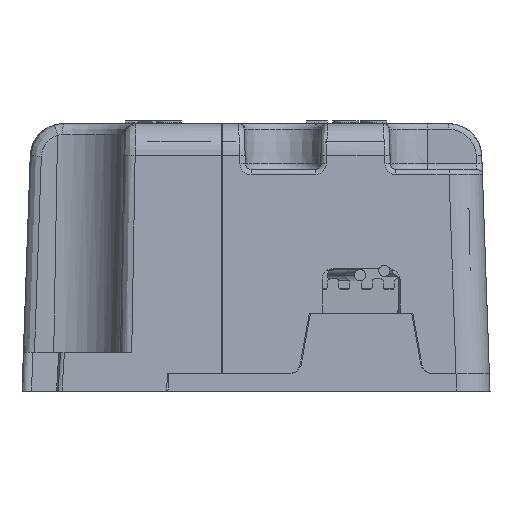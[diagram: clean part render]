
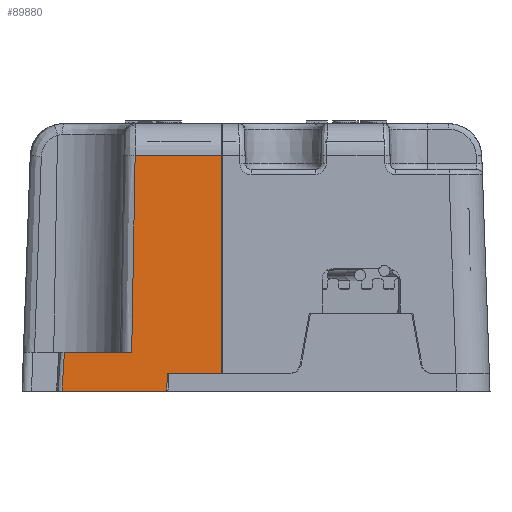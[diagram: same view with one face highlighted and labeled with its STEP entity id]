
A CAD part, left-side view. The second image highlights one B-rep face of the part: STEP entity #89880.
In plain terms, the highlighted planar face has unit normal (-0.999, 0, 0.035) as drawn and (0.999, 0, -0.035) by its records, which use the part's own axes.
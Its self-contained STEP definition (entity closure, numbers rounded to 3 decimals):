
#62340=CARTESIAN_POINT('',(-92.599,-45.689,-1.6));
#62350=VERTEX_POINT('',#62340);
#62380=CARTESIAN_POINT('',(-92.543,-45.689,0.));
#62390=DIRECTION('',(-0.035,0.,-0.999));
#62400=VECTOR('',#62390,1.);
#62410=LINE('',#62380,#62400);
#62420=CARTESIAN_POINT('',(-93.28,-45.689,
-21.105));
#62430=VERTEX_POINT('',#62420);
#62440=EDGE_CURVE('',#62350,#62430,#62410,.T.);
#79150=CARTESIAN_POINT('',(-92.665,-37.634,-3.5));
#79160=VERTEX_POINT('',#79150);
#79190=CARTESIAN_POINT('',(-92.665,-1.,-3.5));
#79200=DIRECTION('',(0.,1.,0.));
#79210=VECTOR('',#79200,1.);
#79220=LINE('',#79190,#79210);
#79230=CARTESIAN_POINT('',(-92.665,-31.592,-3.5));
#79240=VERTEX_POINT('',#79230);
#79250=EDGE_CURVE('',#79160,#79240,#79220,.T.);
#83310=CARTESIAN_POINT('',(-92.543,-31.384,0.));
#83320=VERTEX_POINT('',#83310);
#83350=CARTESIAN_POINT('',(-92.543,0.,0.));
#83360=DIRECTION('',(0.,1.,0.));
#83370=VECTOR('',#83360,1.);
#83380=LINE('',#83350,#83370);
#83390=CARTESIAN_POINT('',(-92.543,-40.789,0.));
#83400=VERTEX_POINT('',#83390);
#83410=EDGE_CURVE('',#83400,#83320,#83380,.T.);
#89440=CARTESIAN_POINT('',(-92.748,-40.404,
-5.862));
#89450=DIRECTION('',(-0.999,0.,0.035));
#89460=DIRECTION('',(0.,1.,0.));
#89470=AXIS2_PLACEMENT_3D('',#89440,#89450,#89460);
#89480=PLANE('',#89470);
#89490=CARTESIAN_POINT('',(-92.544,-37.573,
-0.035));
#89500=DIRECTION('',(-0.035,-0.017,
-0.999));
#89510=VECTOR('',#89500,1.);
#89520=LINE('',#89490,#89510);
#89530=CARTESIAN_POINT('',(-93.28,-37.941,
-21.105));
#89540=VERTEX_POINT('',#89530);
#89550=EDGE_CURVE('',#79160,#89540,#89520,.T.);
#89560=ORIENTED_EDGE('',*,*,#89550,.F.);
#89570=CARTESIAN_POINT('',(-93.28,0.,-21.105));
#89580=DIRECTION('',(0.,1.,0.));
#89590=VECTOR('',#89580,1.);
#89600=LINE('',#89570,#89590);
#89610=EDGE_CURVE('',#62430,#89540,#89600,.T.);
#89620=ORIENTED_EDGE('',*,*,#89610,.T.);
#89630=ORIENTED_EDGE('',*,*,#62440,.T.);
#89640=CARTESIAN_POINT('',(-92.599,0.,-1.6));
#89650=DIRECTION('',(0.,1.,0.));
#89660=VECTOR('',#89650,1.);
#89670=LINE('',#89640,#89660);
#89680=CARTESIAN_POINT('',(-92.599,-40.817,-1.6));
#89690=VERTEX_POINT('',#89680);
#89700=EDGE_CURVE('',#62350,#89690,#89670,.T.);
#89710=ORIENTED_EDGE('',*,*,#89700,.F.);
#89720=CARTESIAN_POINT('',(-92.543,-40.789,0.));
#89730=DIRECTION('',(0.035,0.017,
0.999));
#89740=VECTOR('',#89730,1.);
#89750=LINE('',#89720,#89740);
#89760=EDGE_CURVE('',#89690,#83400,#89750,.T.);
#89770=ORIENTED_EDGE('',*,*,#89760,.F.);
#89780=ORIENTED_EDGE('',*,*,#83410,.F.);
#89790=CARTESIAN_POINT('',(-92.544,-31.385,
-0.017));
#89800=DIRECTION('',(-0.035,-0.059,
-0.998));
#89810=VECTOR('',#89800,1.);
#89820=LINE('',#89790,#89810);
#89830=EDGE_CURVE('',#83320,#79240,#89820,.T.);
#89840=ORIENTED_EDGE('',*,*,#89830,.F.);
#89850=ORIENTED_EDGE('',*,*,#79250,.T.);
#89860=EDGE_LOOP('',(#89850,#89840,#89780,#89770,#89710,#89630,#89620,
#89560));
#89870=FACE_OUTER_BOUND('',#89860,.T.);
#89880=ADVANCED_FACE('',(#89870),#89480,.F.);
